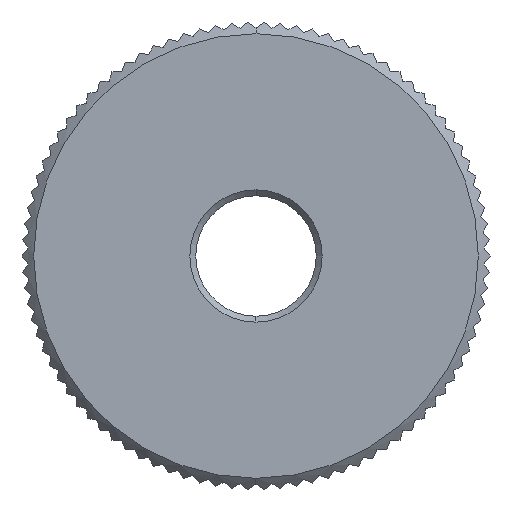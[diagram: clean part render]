
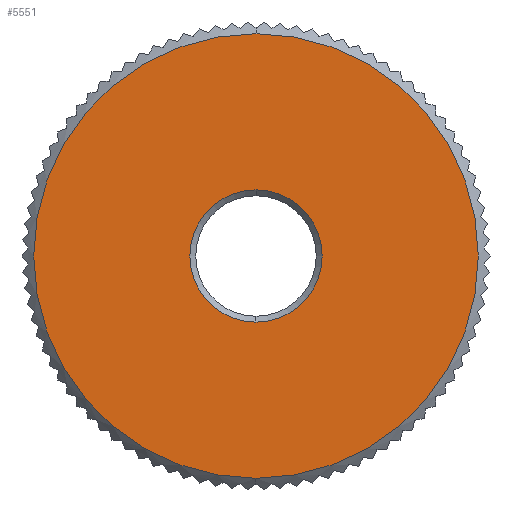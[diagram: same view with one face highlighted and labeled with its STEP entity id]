
A CAD part, left-side view. The second image highlights one B-rep face of the part: STEP entity #5551.
In plain terms, the highlighted planar face has unit normal (-1, 0, 0).
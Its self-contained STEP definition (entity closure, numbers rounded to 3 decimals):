
#1246 = CARTESIAN_POINT ( 'NONE',  ( -10., 0., -19. ) ) ;
#1874 = CARTESIAN_POINT ( 'NONE',  ( -10., 0., 19. ) ) ;
#2119 = DIRECTION ( 'NONE',  ( 0., 0., -1. ) ) ;
#2120 = DIRECTION ( 'NONE',  ( -1., 0., 0. ) ) ;
#2121 = CARTESIAN_POINT ( 'NONE',  ( -10., 0., 0. ) ) ;
#2122 = AXIS2_PLACEMENT_3D ( 'NONE', #2121, #2120, #2119 ) ;
#2123 = CIRCLE ( 'NONE', #2122, 19. ) ;
#2232 = DIRECTION ( 'NONE',  ( 0., 0., -1. ) ) ;
#2233 = DIRECTION ( 'NONE',  ( 1., 0., 0. ) ) ;
#2234 = CARTESIAN_POINT ( 'NONE',  ( -10., 0., 0. ) ) ;
#2235 = AXIS2_PLACEMENT_3D ( 'NONE', #2234, #2233, #2232 ) ;
#2236 = PLANE ( 'NONE',  #2235 ) ;
#2237 = FACE_OUTER_BOUND ( 'NONE', #6662, .T. ) ;
#2238 = FACE_BOUND ( 'NONE', #5277, .T. ) ;
#3062 = CARTESIAN_POINT ( 'NONE',  ( -10., 0., 5.65 ) ) ;
#3063 = DIRECTION ( 'NONE',  ( 0., 0., -1. ) ) ;
#3064 = DIRECTION ( 'NONE',  ( 1., 0., 0. ) ) ;
#3065 = CARTESIAN_POINT ( 'NONE',  ( -10., 0., 0. ) ) ;
#3066 = AXIS2_PLACEMENT_3D ( 'NONE', #3065, #3064, #3063 ) ;
#3067 = CIRCLE ( 'NONE', #3066, 5.65 ) ;
#3068 = CARTESIAN_POINT ( 'NONE',  ( -10., 0., -5.65 ) ) ;
#4192 = DIRECTION ( 'NONE',  ( 0., 0., -1. ) ) ;
#4193 = DIRECTION ( 'NONE',  ( -1., 0., 0. ) ) ;
#4194 = AXIS2_PLACEMENT_3D ( 'NONE', #4200, #4193, #4192 ) ;
#4195 = CIRCLE ( 'NONE', #4194, 19. ) ;
#4200 = CARTESIAN_POINT ( 'NONE',  ( -10., 0., 0. ) ) ;
#4209 = DIRECTION ( 'NONE',  ( 0., 0., -1. ) ) ;
#4210 = DIRECTION ( 'NONE',  ( 1., 0., 0. ) ) ;
#4211 = CARTESIAN_POINT ( 'NONE',  ( -10., 0., 0. ) ) ;
#4212 = AXIS2_PLACEMENT_3D ( 'NONE', #4211, #4210, #4209 ) ;
#4213 = CIRCLE ( 'NONE', #4212, 5.65 ) ;
#4977 = VERTEX_POINT ( 'NONE', #1246 ) ;
#5277 = EDGE_LOOP ( 'NONE', ( #5364, #5362 ) ) ;
#5315 = VERTEX_POINT ( 'NONE', #1874 ) ;
#5362 = ORIENTED_EDGE ( 'NONE', *, *, #6675, .T. ) ;
#5364 = ORIENTED_EDGE ( 'NONE', *, *, #6040, .T. ) ;
#5469 = EDGE_CURVE ( 'NONE', #5315, #4977, #2123, .T. ) ;
#5551 = ADVANCED_FACE ( 'NONE', ( #2238, #2237 ), #2236, .F. ) ;
#6038 = VERTEX_POINT ( 'NONE', #3068 ) ;
#6040 = EDGE_CURVE ( 'NONE', #6041, #6038, #3067, .T. ) ;
#6041 = VERTEX_POINT ( 'NONE', #3062 ) ;
#6652 = ORIENTED_EDGE ( 'NONE', *, *, #5469, .T. ) ;
#6661 = EDGE_CURVE ( 'NONE', #4977, #5315, #4195, .T. ) ;
#6662 = EDGE_LOOP ( 'NONE', ( #6670, #6652 ) ) ;
#6670 = ORIENTED_EDGE ( 'NONE', *, *, #6661, .T. ) ;
#6675 = EDGE_CURVE ( 'NONE', #6038, #6041, #4213, .T. ) ;
